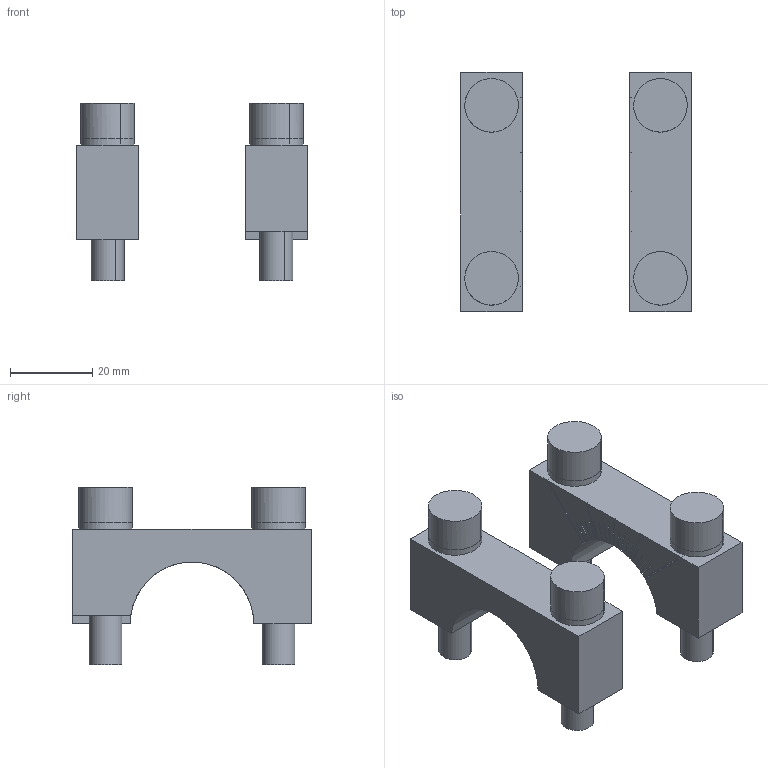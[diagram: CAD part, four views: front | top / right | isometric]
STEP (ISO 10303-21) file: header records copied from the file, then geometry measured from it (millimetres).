
FILE_DESCRIPTION(('CATIA V5 STEP Exchange'),'2;1');
FILE_NAME('\\192.168.2.253\vorns\技术部\03-技术资料\03-产品数模\02、抓具\STP\egt205.stp','2017-10-18T02:11:36+00:00',('none'),('none'),'CATIA Version 5 Release 21 GA (IN-10)','CATIA V5 STEP AP203','none');
FILE_SCHEMA(('CONFIG_CONTROL_DESIGN'));
Length unit declared in the file: millimetre
Products named in the file (1): egt205
Bounding box: 56 x 58 x 43 mm (x, y, z)
Volume: 36171.3 mm3; surface area: 18117.7 mm2
Topology: 10 solids, 10 shells, 204 faces, 538 edges, 360 vertices
Faces by surface type: plane 162, cylinder 42
Entity records: 8278 total; most frequent: CARTESIAN_POINT 3427, ORIENTED_EDGE 1076, DIRECTION 812, EDGE_CURVE 538, VERTEX_POINT 360, VECTOR 328, LINE 328, AXIS2_PLACEMENT_3D 293
